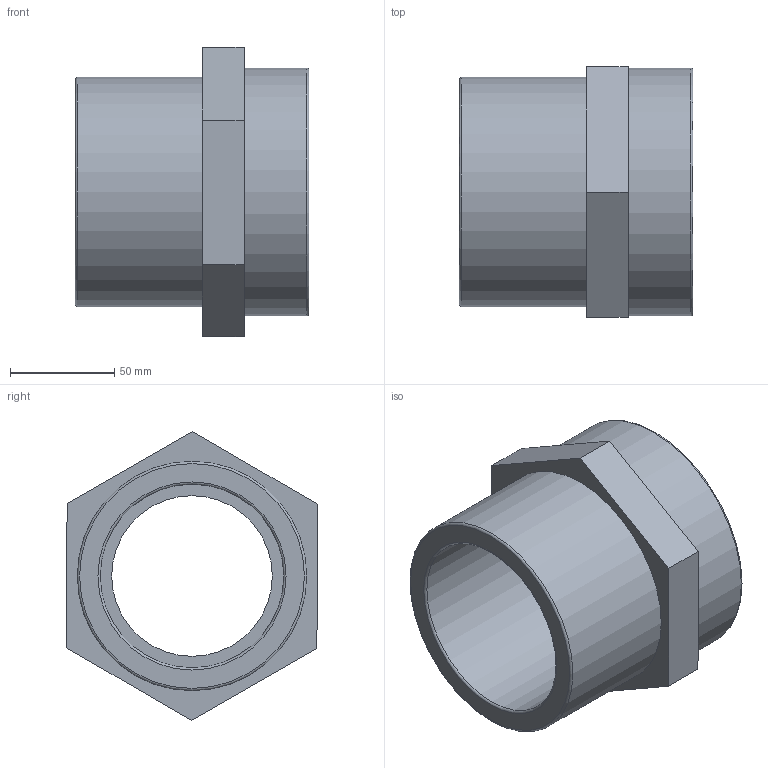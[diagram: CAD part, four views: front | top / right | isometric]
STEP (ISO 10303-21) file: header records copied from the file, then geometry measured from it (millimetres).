
FILE_DESCRIPTION(/* description */ ('PLASSON ADAPTOR SOCKET M.F.110-4" CEM-THR'),/* implementation_level */ '2;1');
FILE_NAME(/* name */ 'C:\Dropbox\KIMPROJECTS-Inventor\99-16-3568-Processing\PVC Catalog 2017\050302\050302110040.ipt.stp',/* time_stamp */ '2017-12-07T15:54:07+02:00',/* author */ ('KIM'),/* organization */ (''),/* preprocessor_version */ 'ST-DEVELOPER v15.6',/* originating_system */ 'Autodesk Inventor 2015',/* authorisation */ '');
FILE_SCHEMA (('AUTOMOTIVE_DESIGN { 1 0 10303 214 3 1 1 }'));
Length unit declared in the file: millimetre
Products named in the file (1): 050302110040
Bounding box: 112 x 120.19 x 138.56 mm (x, y, z)
Volume: 365254.8 mm3; surface area: 89419.6 mm2
Topology: 1 solids, 1 shells, 21 faces, 41 edges, 26 vertices
Faces by surface type: plane 12, cylinder 5, torus 4
Full cylindrical faces by diameter (mm): 77 x1, 88 x1, 110 x1, 110.072 x1, 118.8 x1
Entity records: 520 total; most frequent: DIRECTION 90, CARTESIAN_POINT 80, ORIENTED_EDGE 64, EDGE_LOOP 36, AXIS2_PLACEMENT_3D 36, EDGE_CURVE 32, VERTEX_POINT 26, FACE_OUTER_BOUND 21
